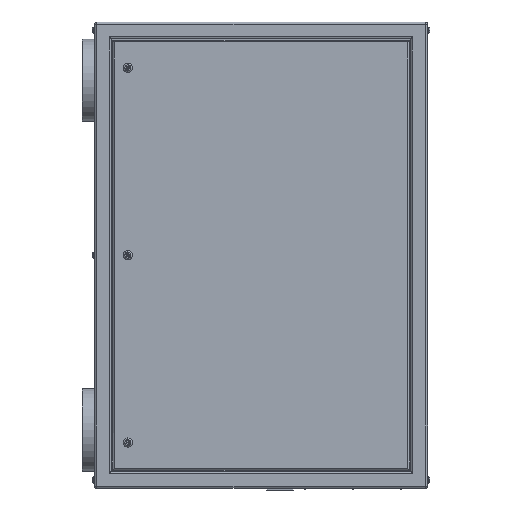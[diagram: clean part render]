
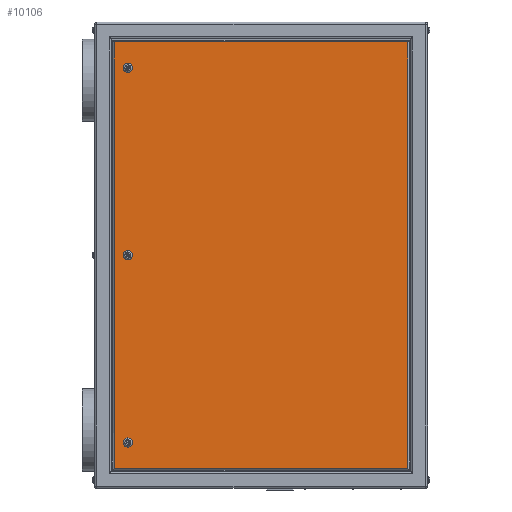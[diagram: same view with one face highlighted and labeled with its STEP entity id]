
A CAD part, left-side view. The second image highlights one B-rep face of the part: STEP entity #10106.
In plain terms, the highlighted planar face has unit normal (-1, 0, 0).
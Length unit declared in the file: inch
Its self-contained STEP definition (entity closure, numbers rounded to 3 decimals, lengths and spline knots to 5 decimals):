
#86 = DIRECTION ( 'NONE',  ( 0., -1., 0. ) ) ;
#654 = VERTEX_POINT ( 'NONE', #1005 ) ;
#722 = CARTESIAN_POINT ( 'NONE',  ( -13., 16., 0. ) ) ;
#881 = DIRECTION ( 'NONE',  ( 1., 0., 0. ) ) ;
#1005 = CARTESIAN_POINT ( 'NONE',  ( -13., 17.6, -25.6 ) ) ;
#1155 = ORIENTED_EDGE ( 'NONE', *, *, #7780, .T. ) ;
#1207 = CIRCLE ( 'NONE', #15521, 0.55 ) ;
#1356 = CARTESIAN_POINT ( 'NONE',  ( -13., -17.6, 25.6 ) ) ;
#1572 = DIRECTION ( 'NONE',  ( 1., 0., 0. ) ) ;
#1676 = CARTESIAN_POINT ( 'NONE',  ( -13., 16., -0.55 ) ) ;
#1755 = AXIS2_PLACEMENT_3D ( 'NONE', #4896, #2515, #11525 ) ;
#1807 = ORIENTED_EDGE ( 'NONE', *, *, #7568, .T. ) ;
#2110 = VECTOR ( 'NONE', #13120, 39.37008 ) ;
#2214 = CARTESIAN_POINT ( 'NONE',  ( -13., 16., 23.05 ) ) ;
#2369 = CIRCLE ( 'NONE', #13479, 0.55 ) ;
#2515 = DIRECTION ( 'NONE',  ( 1., 0., 0. ) ) ;
#2805 = DIRECTION ( 'NONE',  ( 0., 0., -1. ) ) ;
#2827 = EDGE_LOOP ( 'NONE', ( #3221, #1807, #11692, #14330 ) ) ;
#3036 = EDGE_CURVE ( 'NONE', #15451, #15822, #2369, .T. ) ;
#3221 = ORIENTED_EDGE ( 'NONE', *, *, #11378, .T. ) ;
#3530 = PLANE ( 'NONE',  #15355 ) ;
#3804 = DIRECTION ( 'NONE',  ( 0., 0., 1. ) ) ;
#3818 = EDGE_LOOP ( 'NONE', ( #1155, #14273 ) ) ;
#4645 = CIRCLE ( 'NONE', #1755, 0.55 ) ;
#4651 = DIRECTION ( 'NONE',  ( 0., 1., 0. ) ) ;
#4661 = EDGE_CURVE ( 'NONE', #11143, #13902, #13621, .T. ) ;
#4748 = ORIENTED_EDGE ( 'NONE', *, *, #3036, .T. ) ;
#4896 = CARTESIAN_POINT ( 'NONE',  ( -13., 16., -22.5 ) ) ;
#5045 = EDGE_CURVE ( 'NONE', #13902, #654, #13211, .T. ) ;
#5209 = EDGE_LOOP ( 'NONE', ( #8342, #12818 ) ) ;
#5958 = VECTOR ( 'NONE', #86, 39.37008 ) ;
#6130 = ORIENTED_EDGE ( 'NONE', *, *, #6798, .T. ) ;
#6683 = CARTESIAN_POINT ( 'NONE',  ( -13., 16., 0. ) ) ;
#6712 = CIRCLE ( 'NONE', #11441, 0.55 ) ;
#6737 = CARTESIAN_POINT ( 'NONE',  ( -13., 17.6, -28. ) ) ;
#6798 = EDGE_CURVE ( 'NONE', #15822, #15451, #10928, .T. ) ;
#6925 = VERTEX_POINT ( 'NONE', #13733 ) ;
#6935 = VECTOR ( 'NONE', #4651, 39.37008 ) ;
#7076 = DIRECTION ( 'NONE',  ( 1., 0., 0. ) ) ;
#7151 = CARTESIAN_POINT ( 'NONE',  ( -13., 20., 25.6 ) ) ;
#7167 = EDGE_CURVE ( 'NONE', #9095, #10072, #6712, .T. ) ;
#7559 = DIRECTION ( 'NONE',  ( 0., 0., -1. ) ) ;
#7568 = EDGE_CURVE ( 'NONE', #6925, #11143, #11503, .T. ) ;
#7650 = DIRECTION ( 'NONE',  ( 0., 0., -1. ) ) ;
#7780 = EDGE_CURVE ( 'NONE', #7925, #14276, #4645, .T. ) ;
#7925 = VERTEX_POINT ( 'NONE', #10446 ) ;
#8021 = EDGE_LOOP ( 'NONE', ( #6130, #4748 ) ) ;
#8342 = ORIENTED_EDGE ( 'NONE', *, *, #7167, .T. ) ;
#8479 = FACE_BOUND ( 'NONE', #5209, .T. ) ;
#8638 = CARTESIAN_POINT ( 'NONE',  ( -13., 16., 22.5 ) ) ;
#8716 = DIRECTION ( 'NONE',  ( 0., 0., -1. ) ) ;
#8891 = CARTESIAN_POINT ( 'NONE',  ( -13., 20., -28. ) ) ;
#9018 = CARTESIAN_POINT ( 'NONE',  ( -13., 20., -25.6 ) ) ;
#9095 = VERTEX_POINT ( 'NONE', #10985 ) ;
#9246 = CARTESIAN_POINT ( 'NONE',  ( -13., 16., 0.55 ) ) ;
#10072 = VERTEX_POINT ( 'NONE', #2214 ) ;
#10106 = ADVANCED_FACE ( 'NONE', ( #14743, #16069, #8479, #12314 ), #3530, .F. ) ;
#10270 = LINE ( 'NONE', #9018, #5958 ) ;
#10282 = CIRCLE ( 'NONE', #16408, 0.55 ) ;
#10344 = CARTESIAN_POINT ( 'NONE',  ( -13., -17.6, -28. ) ) ;
#10446 = CARTESIAN_POINT ( 'NONE',  ( -13., 16., -23.05 ) ) ;
#10485 = CARTESIAN_POINT ( 'NONE',  ( -13., 17.6, 25.6 ) ) ;
#10928 = CIRCLE ( 'NONE', #11998, 0.55 ) ;
#10985 = CARTESIAN_POINT ( 'NONE',  ( -13., 16., 21.95 ) ) ;
#11113 = EDGE_CURVE ( 'NONE', #14276, #7925, #1207, .T. ) ;
#11143 = VERTEX_POINT ( 'NONE', #1356 ) ;
#11378 = EDGE_CURVE ( 'NONE', #654, #6925, #10270, .T. ) ;
#11441 = AXIS2_PLACEMENT_3D ( 'NONE', #16201, #14970, #8716 ) ;
#11503 = LINE ( 'NONE', #10344, #14377 ) ;
#11525 = DIRECTION ( 'NONE',  ( 0., 0., -1. ) ) ;
#11692 = ORIENTED_EDGE ( 'NONE', *, *, #4661, .T. ) ;
#11998 = AXIS2_PLACEMENT_3D ( 'NONE', #722, #14386, #7559 ) ;
#12303 = DIRECTION ( 'NONE',  ( 0., 0., -1. ) ) ;
#12314 = FACE_OUTER_BOUND ( 'NONE', #2827, .T. ) ;
#12460 = DIRECTION ( 'NONE',  ( 0., 0., -1. ) ) ;
#12818 = ORIENTED_EDGE ( 'NONE', *, *, #13400, .T. ) ;
#13120 = DIRECTION ( 'NONE',  ( 0., 0., -1. ) ) ;
#13211 = LINE ( 'NONE', #6737, #2110 ) ;
#13400 = EDGE_CURVE ( 'NONE', #10072, #9095, #10282, .T. ) ;
#13479 = AXIS2_PLACEMENT_3D ( 'NONE', #6683, #1572, #2805 ) ;
#13621 = LINE ( 'NONE', #7151, #6935 ) ;
#13733 = CARTESIAN_POINT ( 'NONE',  ( -13., -17.6, -25.6 ) ) ;
#13902 = VERTEX_POINT ( 'NONE', #10485 ) ;
#14273 = ORIENTED_EDGE ( 'NONE', *, *, #11113, .T. ) ;
#14276 = VERTEX_POINT ( 'NONE', #16122 ) ;
#14330 = ORIENTED_EDGE ( 'NONE', *, *, #5045, .T. ) ;
#14377 = VECTOR ( 'NONE', #3804, 39.37008 ) ;
#14386 = DIRECTION ( 'NONE',  ( 1., 0., 0. ) ) ;
#14743 = FACE_BOUND ( 'NONE', #3818, .T. ) ;
#14970 = DIRECTION ( 'NONE',  ( 1., 0., 0. ) ) ;
#15153 = DIRECTION ( 'NONE',  ( 1., 0., 0. ) ) ;
#15355 = AXIS2_PLACEMENT_3D ( 'NONE', #8891, #15153, #7650 ) ;
#15451 = VERTEX_POINT ( 'NONE', #9246 ) ;
#15521 = AXIS2_PLACEMENT_3D ( 'NONE', #16129, #7076, #12460 ) ;
#15822 = VERTEX_POINT ( 'NONE', #1676 ) ;
#16069 = FACE_BOUND ( 'NONE', #8021, .T. ) ;
#16122 = CARTESIAN_POINT ( 'NONE',  ( -13., 16., -21.95 ) ) ;
#16129 = CARTESIAN_POINT ( 'NONE',  ( -13., 16., -22.5 ) ) ;
#16201 = CARTESIAN_POINT ( 'NONE',  ( -13., 16., 22.5 ) ) ;
#16408 = AXIS2_PLACEMENT_3D ( 'NONE', #8638, #881, #12303 ) ;
